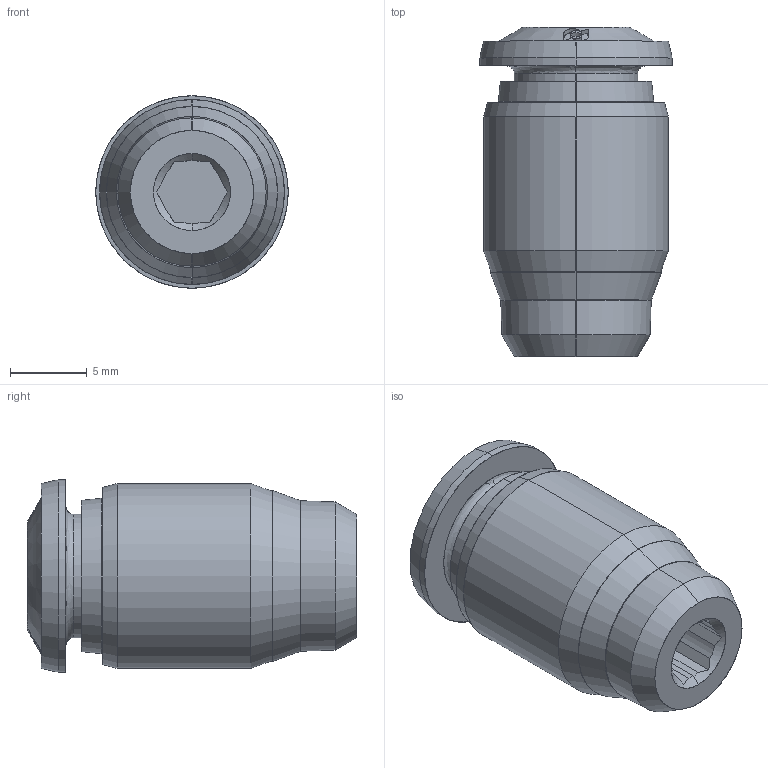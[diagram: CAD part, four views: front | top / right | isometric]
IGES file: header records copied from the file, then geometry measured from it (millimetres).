
Start section: SolidWorks IGES file using analytic representation for surfaces
Global section: file name: K:\Disegni Esecutivi\Serie 55000\ASSIEMI_55000\55010\ASSIEMI_PIENI_55010\5001000002.IGS; native system: SolidWorks 2007; preprocessor: SolidWorks 2007; author: cad02; date: 071117.092954; units: millimetre
Bounding box: 12.5 x 21.4 x 12.5 mm (x, y, z)
Surface area: 1485.9 mm2 (no closed solid volume)
Topology: 0 solids, 0 shells, 146 faces, 1860 edges, 1860 vertices
Faces by surface type: bspline 78, revolution 68
